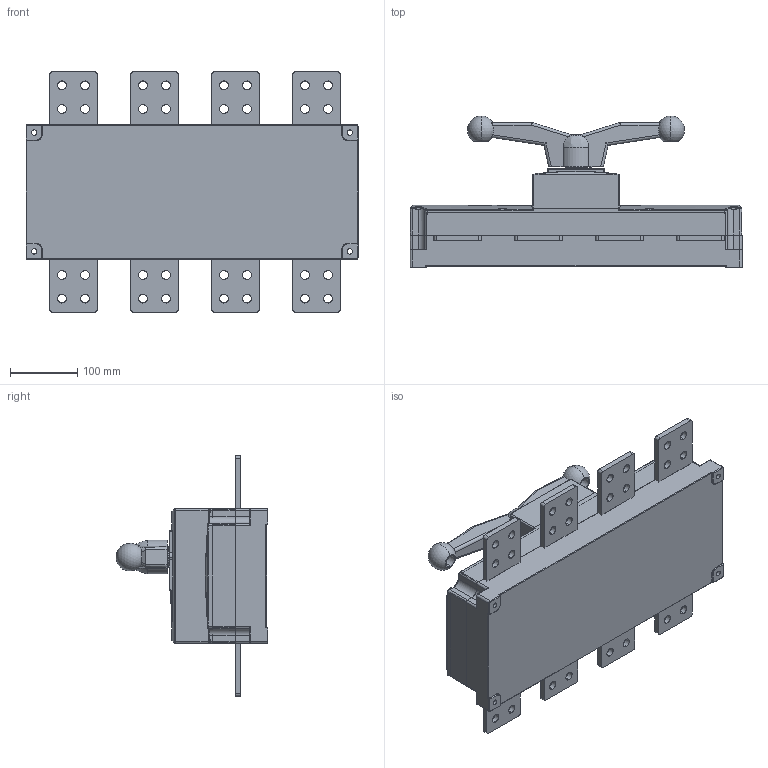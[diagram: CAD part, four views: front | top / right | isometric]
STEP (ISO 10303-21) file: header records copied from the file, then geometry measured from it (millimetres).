
FILE_DESCRIPTION((''),'2;1');
FILE_NAME('NH40-1000-4_4P_202403_ASM','2024-03-18T',('zhuanghy'),(''),'CREO PARAMETRIC BY PTC INC, 2018070','CREO PARAMETRIC BY PTC INC, 2018070','');
FILE_SCHEMA(('AUTOMOTIVE_DESIGN { 1 0 10303 214 1 1 1 1 }'));
Products named in the file (31): ASM0020_ASM_ASM_1_1_2_3_4_1; ASM0019_ASM_ASM_1_1_2_3_4_ASM_1_ASM; ASM0018_ASM_ASM_1_1_2_3_4_ASM_1_ASM; ASM0017_ASM_ASM_1_1_2_3_4_ASM_1_ASM; ASM0016_ASM_ASM_1_1_2_3_4_ASM_1_ASM; ASM0015_ASM_ASM_1_1_2_3_4_ASM_1_ASM; NH40-1000_ASM_ASM_1_1_2_3_4_ASM_ASM; NH40-1000_1600_202107_1_1_2_3_4; NH40-1000-3_ASM_1_ASM_ASM_ASM_3; NH40-1250-3_ASM_ASM_ASM_1_ASM_2_ASM; NH40-1250-3_ASM_ASM_1_ASM_1_1_A_ASM; NH40-1250-3_2020_10__ASM_1_AS_1_ASM; NH40-1250-3_3P_202104_ASM_1_1_A_ASM; NH40-1000-3_3P_202010_ASM_1_1_4_ASM; NH40-1000-3_ASM_1_ASM_ASM_ASM_4_ASM; NH40-1250-3_ASM_ASM_ASM_1_1_ASM_ASM; NH40-1250-3_ASM_ASM_1_1_ASM_1_ASM; NH40-1250-3_2020_10__ASM_1_1_AS_ASM; ASM0004_ASM_1_ASM; ASM0003_ASM_1_ASM; PRT0070_1; PRT0071_1_1; PRT0072_1_1; PRT0073_1; NH40-1250JINGCHUTOU_67_1; ASM0014_ASM_ASM_ASM_1_ASM; NH40-1250-4_ASM_ASM_ASM_1_ASM; NH40-1250-4_ASM_ASM_1_ASM; NH40-1250-4_2020_10__ASM_1_ASM; NH40-1250-4_4P_202104_ASM; NH40-1000-4_4P_202403_ASM
Assembly tree (37 placements, depth 10):
  NH40-1000-4_4P_202403_ASM
    ASM0003_ASM_1_ASM
      NH40-1000-3_3P_202010_ASM_1_1_4_ASM
        NH40-1000_ASM_ASM_1_1_2_3_4_ASM_ASM
          ASM0015_ASM_ASM_1_1_2_3_4_ASM_1_ASM
            ASM0016_ASM_ASM_1_1_2_3_4_ASM_1_ASM
              ASM0017_ASM_ASM_1_1_2_3_4_ASM_1_ASM
                ASM0018_ASM_ASM_1_1_2_3_4_ASM_1_ASM
                  ASM0019_ASM_ASM_1_1_2_3_4_ASM_1_ASM
        NH40-1000_1600_202107_1_1_2_3_4
        NH40-1250-3_3P_202104_ASM_1_1_A_ASM
          NH40-1250-3_2020_10__ASM_1_AS_1_ASM
            NH40-1250-3_ASM_ASM_1_ASM_1_1_A_ASM
              NH40-1250-3_ASM_ASM_ASM_1_ASM_2_ASM
                NH40-1000-3_ASM_1_ASM_ASM_ASM_3
      ASM0004_ASM_1_ASM
        NH40-1250-3_2020_10__ASM_1_1_AS_ASM
          NH40-1250-3_ASM_ASM_1_1_ASM_1_ASM
            NH40-1250-3_ASM_ASM_ASM_1_1_ASM_ASM
              NH40-1000-3_ASM_1_ASM_ASM_ASM_4_ASM
    NH40-1250-4_4P_202104_ASM
      NH40-1250-4_2020_10__ASM_1_ASM
        NH40-1250-4_ASM_ASM_1_ASM
          NH40-1250-4_ASM_ASM_ASM_1_ASM
            ASM0014_ASM_ASM_ASM_1_ASM
              PRT0070_1
              PRT0071_1_1
              PRT0072_1_1
              PRT0073_1
              NH40-1250JINGCHUTOU_67_1  x8
Bounding box: 492 x 225 x 356 mm (x, y, z)
Volume: 12744110.3 mm3; surface area: 1443220.3 mm2
Topology: 13 solids, 16 shells, 2977 faces, 7836 edges, 4673 vertices
Faces by surface type: cylinder 1314, plane 1139, sphere 250, torus 144, bspline 96, cone 34
Entity records: 95856 total; most frequent: CARTESIAN_POINT 28945, ORIENTED_EDGE 14005, DIRECTION 13579, EDGE_CURVE 7007, AXIS2_PLACEMENT_3D 4780, VERTEX_POINT 4239, VECTOR 4019, LINE 4019
